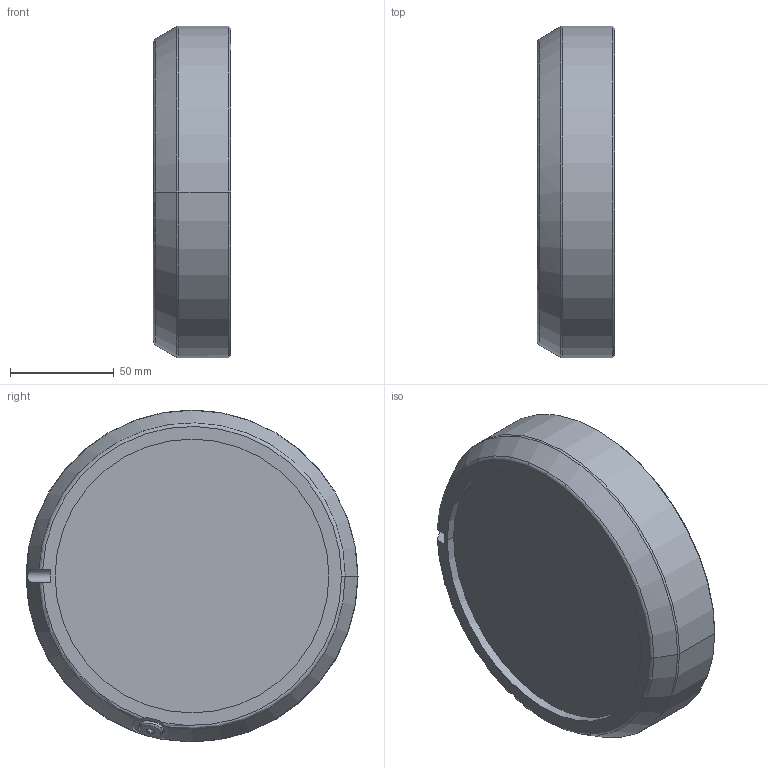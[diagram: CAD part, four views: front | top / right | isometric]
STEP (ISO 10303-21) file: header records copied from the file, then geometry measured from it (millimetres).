
FILE_DESCRIPTION (( 'STEP AP214' ), '1' );
FILE_NAME ('IRB6710_200kg-295_OC_00_LINK06_CAD.STEP', '2023-01-12T10:33:25', ( '' ), ( '' ), 'SwSTEP 2.0', 'SolidWorks 2020', '' );
FILE_SCHEMA (( 'AUTOMOTIVE_DESIGN' ));
Length unit declared in the file: millimetre
Products named in the file (1): IRB6710_200kg-295_OC_00_LINK06_CAD
Bounding box: 37.3 x 160 x 160 mm (x, y, z)
Volume: 519134.6 mm3; surface area: 78182.1 mm2
Topology: 1 solids, 1 shells, 179 faces, 425 edges, 248 vertices
Faces by surface type: cylinder 72, cone 68, plane 28, torus 9, bspline 2
Entity records: 5750 total; most frequent: CARTESIAN_POINT 1292, DIRECTION 936, ORIENTED_EDGE 798, EDGE_CURVE 399, AXIS2_PLACEMENT_3D 380, VERTEX_POINT 248, EDGE_LOOP 205, CIRCLE 202
